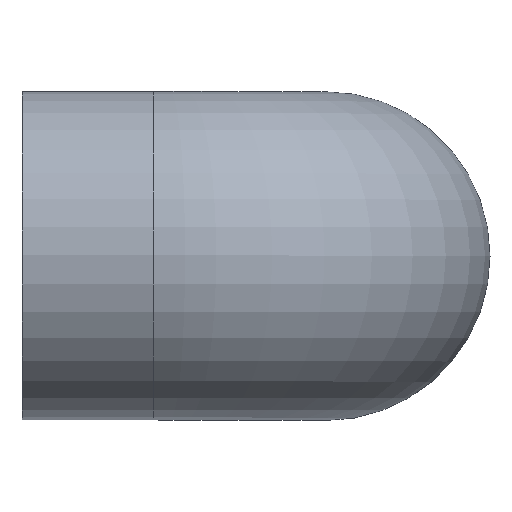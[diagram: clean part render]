
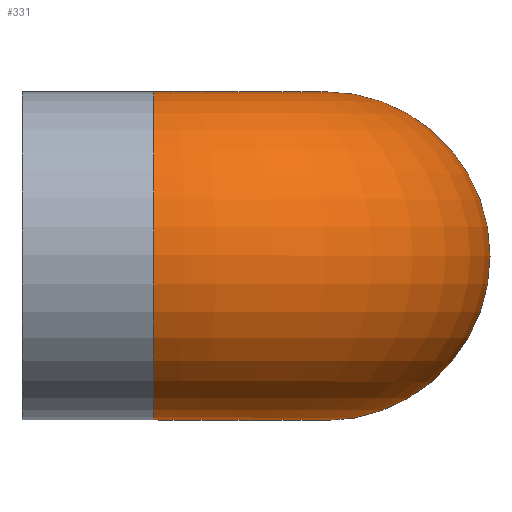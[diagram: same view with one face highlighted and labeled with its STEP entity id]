
A CAD part, top view. The second image highlights one B-rep face of the part: STEP entity #331.
In plain terms, the highlighted toroidal (fillet/blend) face has major radius 55.5 mm and minor radius 53 mm.
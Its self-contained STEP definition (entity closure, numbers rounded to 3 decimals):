
#19=FACE_BOUND('',#92,.T.);
#24=TOROIDAL_SURFACE('',#357,55.5,53.);
#65=FACE_OUTER_BOUND('',#91,.T.);
#91=EDGE_LOOP('',(#287));
#92=EDGE_LOOP('',(#288));
#110=CIRCLE('',#356,53.);
#111=CIRCLE('',#358,53.);
#164=VERTEX_POINT('',#11788);
#165=VERTEX_POINT('',#11791);
#208=EDGE_CURVE('',#164,#164,#110,.T.);
#209=EDGE_CURVE('',#165,#165,#111,.T.);
#287=ORIENTED_EDGE('',*,*,#208,.F.);
#288=ORIENTED_EDGE('',*,*,#209,.T.);
#331=ADVANCED_FACE('',(#65,#19),#24,.T.);
#356=AXIS2_PLACEMENT_3D('',#11789,#409,#410);
#357=AXIS2_PLACEMENT_3D('',#11790,#411,#412);
#358=AXIS2_PLACEMENT_3D('',#11792,#413,#414);
#409=DIRECTION('center_axis',(-1.,0.,0.));
#410=DIRECTION('ref_axis',(0.,0.,-1.));
#411=DIRECTION('center_axis',(0.,-1.,0.));
#412=DIRECTION('ref_axis',(0.,0.,-1.));
#413=DIRECTION('center_axis',(0.,0.,1.));
#414=DIRECTION('ref_axis',(-1.,0.,0.));
#11788=CARTESIAN_POINT('',(-55.5,0.,151.));
#11789=CARTESIAN_POINT('Origin',(-55.5,0.,98.));
#11790=CARTESIAN_POINT('Origin',(-55.5,0.,42.5));
#11791=CARTESIAN_POINT('',(53.,0.,42.5));
#11792=CARTESIAN_POINT('Origin',(0.,0.,42.5));
